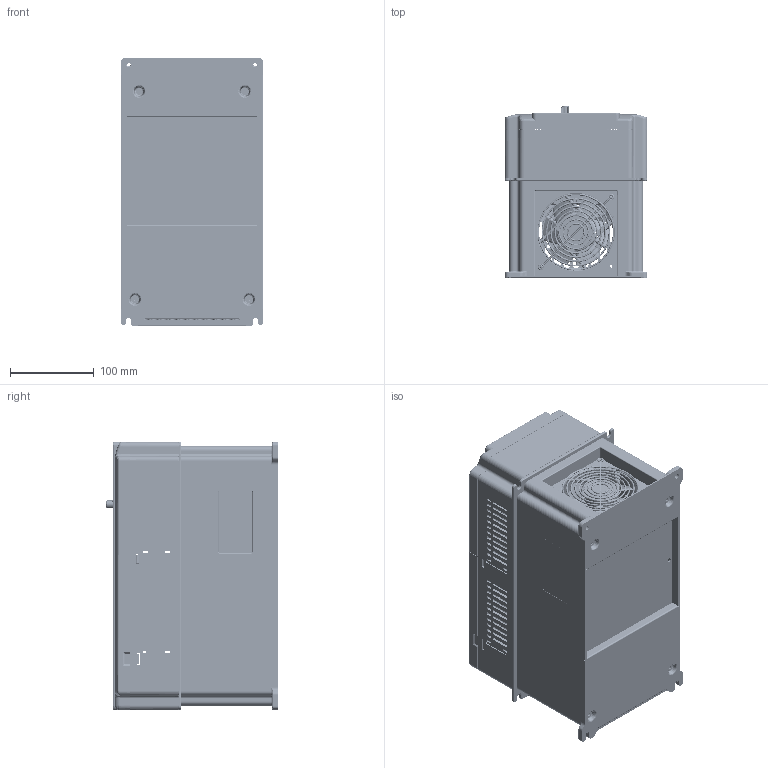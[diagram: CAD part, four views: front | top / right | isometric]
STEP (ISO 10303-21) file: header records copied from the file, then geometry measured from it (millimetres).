
FILE_DESCRIPTION (( 'STEP AP203' ), '1' );
FILE_NAME ('GD20-015G-4.STEP', '2020-03-25T15:39:06', ( '' ), ( '' ), 'SwSTEP 2.0', 'SolidWorks 2017', '' );
FILE_SCHEMA (( 'CONFIG_CONTROL_DESIGN' ));
Length unit declared in the file: millimetre
Products named in the file (37): PRT-003; PRT-001; PRT-008; ASM_001; PRT-006; PRT-002; PRT-010; PRT-015; PRT-012; PRT-009; PRT-014; PRT-004; PRT-011; PRT-013; PRT-007; ASM_002; PRT-005; GD20-015G-4
Assembly tree (21 placements, depth 3):
  PRT-003
  PRT-006
  PRT-010
  PRT-015
  PRT-012
Bounding box: 170 x 204.15 x 320 mm (x, y, z)
Volume: 715252.8 mm3; surface area: 1040513.9 mm2
Topology: 17 solids, 19 shells, 8208 faces, 23648 edges, 15486 vertices
Faces by surface type: plane 5352, cylinder 1595, bspline 963, cone 290, torus 8
Entity records: 323391 total; most frequent: CARTESIAN_POINT 121735, ORIENTED_EDGE 45664, DIRECTION 34215, EDGE_CURVE 22950, LINE 15067, VECTOR 15067, VERTEX_POINT 15054, AXIS2_PLACEMENT_3D 9574
